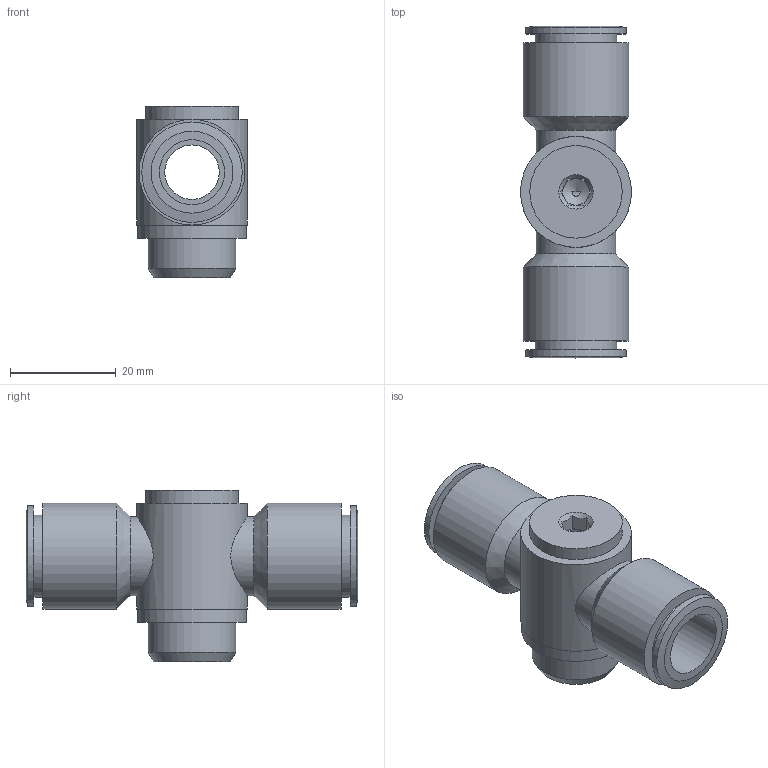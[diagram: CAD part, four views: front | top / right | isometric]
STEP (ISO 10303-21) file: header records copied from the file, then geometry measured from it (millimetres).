
FILE_DESCRIPTION((''),'2;1');
FILE_NAME('C:\Documents and Settings\rivolro1\Documenti\copia di Raccordi\PLASTICA\T16XXXX\T161238.stp','2007-10-31T15:07:17',('Rivolro1'),(''),'Autodesk Inventor 2008','Autodesk Inventor 2008','');
FILE_SCHEMA(('AUTOMOTIVE_DESIGN { 1 0 10303 214 1 1 1 1 }'));
Length unit declared in the file: millimetre
Products named in the file (1): T161238
Bounding box: 21 x 62.8 x 32.5 mm (x, y, z)
Volume: 15179.9 mm3; surface area: 8209 mm2
Topology: 1 solids, 1 shells, 50 faces, 105 edges, 67 vertices
Faces by surface type: plane 24, cylinder 14, bspline 7, cone 5
Full cylindrical faces by diameter (mm): 10.3 x1, 15 x2, 15.5 x2, 16.6 x1, 17.5 x1, 19 x2, 20 x2, 20.6 x1, 21 x1
Entity records: 1538 total; most frequent: CARTESIAN_POINT 552, DIRECTION 188, ORIENTED_EDGE 150, EDGE_LOOP 87, AXIS2_PLACEMENT_3D 84, EDGE_CURVE 75, VERTEX_POINT 62, FACE_OUTER_BOUND 50
